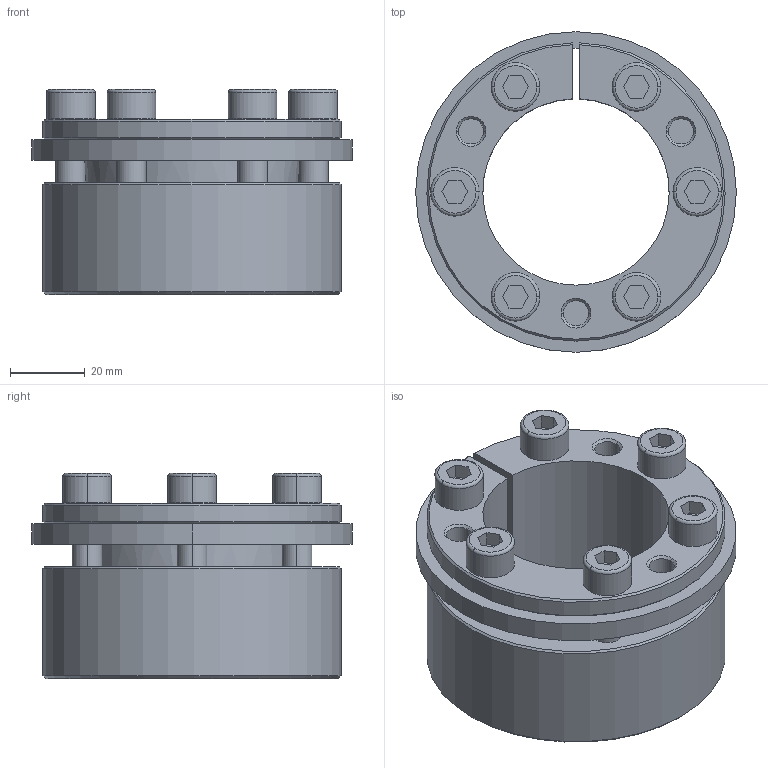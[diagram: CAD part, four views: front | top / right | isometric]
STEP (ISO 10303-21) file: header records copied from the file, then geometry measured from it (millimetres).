
FILE_DESCRIPTION((''),'2;1');
FILE_NAME('398-015-0050','2024-02-16T',('Brieden'),('Brieden'),'PRO/ENGINEER BY PARAMETRIC TECHNOLOGY CORPORATION, 2010160','PRO/ENGINEER BY PARAMETRIC TECHNOLOGY CORPORATION, 2010160','');
FILE_SCHEMA(('AUTOMOTIVE_DESIGN { 1 0 10303 214 1 1 1 1 }'));
Length unit declared in the file: millimetre
Products named in the file (1): 398-015-0050
Bounding box: 86 x 86 x 55 mm (x, y, z)
Volume: 136602.7 mm3; surface area: 53368.5 mm2
Topology: 2 solids, 2 shells, 183 faces, 483 edges, 307 vertices
Faces by surface type: plane 78, cylinder 62, cone 31, torus 12
Entity records: 8201 total; most frequent: CARTESIAN_POINT 1730, DIRECTION 1050, ORIENTED_EDGE 966, PRESENTATION_STYLE_ASSIGNMENT 505, STYLED_ITEM 485, CURVE_STYLE 483, EDGE_CURVE 483, AXIS2_PLACEMENT_3D 419
